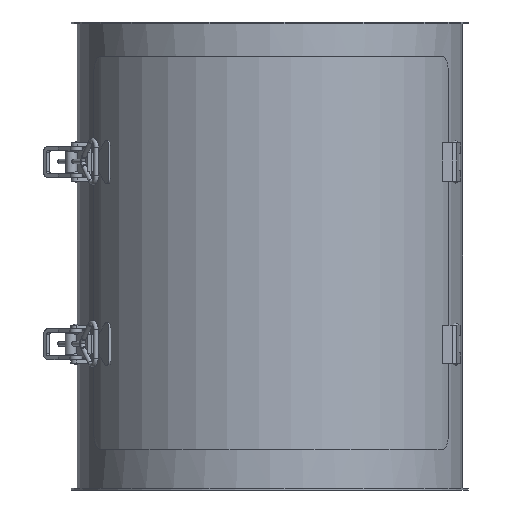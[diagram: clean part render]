
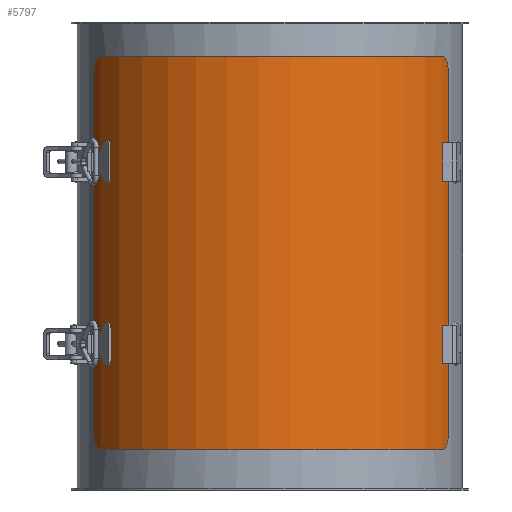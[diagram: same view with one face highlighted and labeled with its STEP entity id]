
A CAD part, front view. The second image highlights one B-rep face of the part: STEP entity #5797.
In plain terms, the highlighted cylindrical face has radius 203 mm (diameter 406 mm), a partial arc.
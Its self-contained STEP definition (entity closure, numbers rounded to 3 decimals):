
#5172=CARTESIAN_POINT('',(126.282,-2.475,336.513));
#5173=VERTEX_POINT('',#5172);
#5180=CARTESIAN_POINT('',(135.73,12.525,324.849));
#5181=VERTEX_POINT('',#5180);
#5182=CARTESIAN_POINT('',(126.282,-2.475,336.513));
#5183=CARTESIAN_POINT('',(126.282,-0.592,336.513));
#5184=CARTESIAN_POINT('',(126.531,1.417,336.23));
#5185=CARTESIAN_POINT('',(127.531,5.113,335.071));
#5186=CARTESIAN_POINT('',(128.282,6.8,334.194));
#5187=CARTESIAN_POINT('',(129.991,9.465,332.149));
#5188=CARTESIAN_POINT('',(131.063,10.619,330.844));
#5189=CARTESIAN_POINT('',(132.791,11.767,328.672));
#5190=CARTESIAN_POINT('',(133.387,12.056,327.913));
#5191=CARTESIAN_POINT('',(134.573,12.435,326.379));
#5192=CARTESIAN_POINT('',(135.164,12.525,325.603));
#5193=CARTESIAN_POINT('',(135.73,12.525,324.849));
#5194=B_SPLINE_CURVE_WITH_KNOTS('',3,(#5182,#5183,#5184,#5185,#5186,#5187,#5188,#5189,#5190,#5191,#5192,#5193),.UNSPECIFIED.,.F.,.U.,(4,2,2,2,2,4),(4.528,5.093,5.658,6.224,6.507,6.79),.UNSPECIFIED.);
#5195=EDGE_CURVE('',#5173,#5181,#5194,.T.);
#5310=CARTESIAN_POINT('',(-11.634,12.525,0.555));
#5311=VERTEX_POINT('',#5310);
#5312=CARTESIAN_POINT('',(-26.634,12.525,203.0));
#5313=DIRECTION('',(0.0,-1.0,0.0));
#5314=DIRECTION('',(0.0,0.0,-1.0));
#5315=AXIS2_PLACEMENT_3D('',#5312,#5313,#5314);
#5316=CIRCLE('',#5315,203.0);
#5317=EDGE_CURVE('',#5311,#5181,#5316,.T.);
#5336=CARTESIAN_POINT('',(-26.634,-2.475,0.0));
#5337=VERTEX_POINT('',#5336);
#5338=CARTESIAN_POINT('',(-11.634,12.525,0.555));
#5339=CARTESIAN_POINT('',(-12.574,12.525,0.485));
#5340=CARTESIAN_POINT('',(-13.547,12.435,0.42));
#5341=CARTESIAN_POINT('',(-15.483,12.056,0.304));
#5342=CARTESIAN_POINT('',(-16.446,11.767,0.254));
#5343=CARTESIAN_POINT('',(-19.219,10.619,0.127));
#5344=CARTESIAN_POINT('',(-20.907,9.465,0.076));
#5345=CARTESIAN_POINT('',(-23.572,6.8,0.019));
#5346=CARTESIAN_POINT('',(-24.726,5.113,0.008));
#5347=CARTESIAN_POINT('',(-26.257,1.417,-0.001));
#5348=CARTESIAN_POINT('',(-26.634,-0.592,0.));
#5349=CARTESIAN_POINT('',(-26.634,-2.475,0.));
#5350=B_SPLINE_CURVE_WITH_KNOTS('',3,(#5338,#5339,#5340,#5341,#5342,#5343,#5344,#5345,#5346,#5347,#5348,#5349),.UNSPECIFIED.,.F.,.U.,(4,2,2,2,2,4),(6.795,7.078,7.361,7.926,8.491,9.057),.UNSPECIFIED.);
#5351=EDGE_CURVE('',#5311,#5337,#5350,.T.);
#5368=CARTESIAN_POINT('',(135.73,-397.475,324.849));
#5369=VERTEX_POINT('',#5368);
#5376=CARTESIAN_POINT('',(126.282,-382.475,336.513));
#5377=VERTEX_POINT('',#5376);
#5378=CARTESIAN_POINT('',(135.73,-397.475,324.849));
#5379=CARTESIAN_POINT('',(135.164,-397.475,325.603));
#5380=CARTESIAN_POINT('',(134.573,-397.385,326.379));
#5381=CARTESIAN_POINT('',(133.387,-397.006,327.913));
#5382=CARTESIAN_POINT('',(132.791,-396.717,328.672));
#5383=CARTESIAN_POINT('',(131.063,-395.57,330.844));
#5384=CARTESIAN_POINT('',(129.991,-394.415,332.149));
#5385=CARTESIAN_POINT('',(128.282,-391.75,334.194));
#5386=CARTESIAN_POINT('',(127.531,-390.063,335.071));
#5387=CARTESIAN_POINT('',(126.531,-386.368,336.23));
#5388=CARTESIAN_POINT('',(126.282,-384.359,336.513));
#5389=CARTESIAN_POINT('',(126.282,-382.475,336.513));
#5390=B_SPLINE_CURVE_WITH_KNOTS('',3,(#5378,#5379,#5380,#5381,#5382,#5383,#5384,#5385,#5386,#5387,#5388,#5389),.UNSPECIFIED.,.F.,.U.,(4,2,2,2,2,4),(2.267,2.55,2.832,3.398,3.963,4.528),.UNSPECIFIED.);
#5391=EDGE_CURVE('',#5369,#5377,#5390,.T.);
#5409=CARTESIAN_POINT('',(-11.634,-397.475,0.555));
#5410=VERTEX_POINT('',#5409);
#5417=CARTESIAN_POINT('',(-26.634,-397.475,203.0));
#5418=DIRECTION('',(0.0,1.0,0.0));
#5419=DIRECTION('',(0.753,0.0,0.658));
#5420=AXIS2_PLACEMENT_3D('',#5417,#5418,#5419);
#5421=CIRCLE('',#5420,203.0);
#5422=EDGE_CURVE('',#5369,#5410,#5421,.T.);
#5433=CARTESIAN_POINT('',(-26.634,-382.475,0.0));
#5434=VERTEX_POINT('',#5433);
#5441=CARTESIAN_POINT('',(-26.634,-382.475,0.));
#5442=CARTESIAN_POINT('',(-26.634,-384.359,0.));
#5443=CARTESIAN_POINT('',(-26.257,-386.368,-0.001));
#5444=CARTESIAN_POINT('',(-24.726,-390.063,0.008));
#5445=CARTESIAN_POINT('',(-23.572,-391.75,0.019));
#5446=CARTESIAN_POINT('',(-20.907,-394.415,0.076));
#5447=CARTESIAN_POINT('',(-19.219,-395.57,0.127));
#5448=CARTESIAN_POINT('',(-16.446,-396.717,0.254));
#5449=CARTESIAN_POINT('',(-15.483,-397.006,0.304));
#5450=CARTESIAN_POINT('',(-13.547,-397.385,0.42));
#5451=CARTESIAN_POINT('',(-12.574,-397.475,0.485));
#5452=CARTESIAN_POINT('',(-11.634,-397.475,0.555));
#5453=B_SPLINE_CURVE_WITH_KNOTS('',3,(#5441,#5442,#5443,#5444,#5445,#5446,#5447,#5448,#5449,#5450,#5451,#5452),.UNSPECIFIED.,.F.,.U.,(4,2,2,2,2,4),(9.057,9.622,10.187,10.752,11.035,11.318),.UNSPECIFIED.);
#5454=EDGE_CURVE('',#5434,#5410,#5453,.T.);
#5505=CARTESIAN_POINT('',(132.674,-117.475,328.818));
#5506=VERTEX_POINT('',#5505);
#5514=CARTESIAN_POINT('',(132.674,-77.475,328.818));
#5515=VERTEX_POINT('',#5514);
#5522=CARTESIAN_POINT('',(132.674,-117.475,328.818));
#5523=DIRECTION('',(0.0,1.0,0.0));
#5524=VECTOR('',#5523,40.);
#5525=LINE('',#5522,#5524);
#5526=EDGE_CURVE('',#5506,#5515,#5525,.T.);
#5536=CARTESIAN_POINT('',(135.29,-117.475,325.432));
#5537=VERTEX_POINT('',#5536);
#5544=CARTESIAN_POINT('',(135.29,-77.475,325.432));
#5545=VERTEX_POINT('',#5544);
#5546=CARTESIAN_POINT('',(135.29,-77.475,325.432));
#5547=DIRECTION('',(0.0,-1.0,0.0));
#5548=VECTOR('',#5547,40.);
#5549=LINE('',#5546,#5548);
#5550=EDGE_CURVE('',#5545,#5537,#5549,.T.);
#5569=CARTESIAN_POINT('',(-26.634,-117.475,203.0));
#5570=DIRECTION('',(0.0,-1.0,0.0));
#5571=DIRECTION('',(0.753,0.0,0.658));
#5572=AXIS2_PLACEMENT_3D('',#5569,#5570,#5571);
#5573=CIRCLE('',#5572,203.0);
#5574=EDGE_CURVE('',#5537,#5506,#5573,.T.);
#5586=CARTESIAN_POINT('',(-26.634,-77.475,203.0));
#5587=DIRECTION('',(0.0,1.0,0.0));
#5588=DIRECTION('',(0.753,0.0,0.658));
#5589=AXIS2_PLACEMENT_3D('',#5586,#5587,#5588);
#5590=CIRCLE('',#5589,203.0);
#5591=EDGE_CURVE('',#5515,#5545,#5590,.T.);
#5643=CARTESIAN_POINT('',(132.674,-267.475,328.818));
#5644=VERTEX_POINT('',#5643);
#5651=CARTESIAN_POINT('',(132.674,-307.475,328.818));
#5652=VERTEX_POINT('',#5651);
#5653=CARTESIAN_POINT('',(132.674,-307.475,328.818));
#5654=DIRECTION('',(0.0,1.0,0.0));
#5655=VECTOR('',#5654,40.);
#5656=LINE('',#5653,#5655);
#5657=EDGE_CURVE('',#5652,#5644,#5656,.T.);
#5674=CARTESIAN_POINT('',(135.29,-267.475,325.432));
#5675=VERTEX_POINT('',#5674);
#5683=CARTESIAN_POINT('',(135.29,-307.475,325.432));
#5684=VERTEX_POINT('',#5683);
#5691=CARTESIAN_POINT('',(135.29,-267.475,325.432));
#5692=DIRECTION('',(0.0,-1.0,0.0));
#5693=VECTOR('',#5692,40.);
#5694=LINE('',#5691,#5693);
#5695=EDGE_CURVE('',#5675,#5684,#5694,.T.);
#5707=CARTESIAN_POINT('',(-26.634,-267.475,203.0));
#5708=DIRECTION('',(0.0,1.0,0.0));
#5709=DIRECTION('',(0.753,0.0,0.658));
#5710=AXIS2_PLACEMENT_3D('',#5707,#5708,#5709);
#5711=CIRCLE('',#5710,203.0);
#5712=EDGE_CURVE('',#5644,#5675,#5711,.T.);
#5726=CARTESIAN_POINT('',(-26.634,-307.475,203.0));
#5727=DIRECTION('',(0.0,-1.0,0.0));
#5728=DIRECTION('',(0.753,0.0,0.658));
#5729=AXIS2_PLACEMENT_3D('',#5726,#5727,#5728);
#5730=CIRCLE('',#5729,203.0);
#5731=EDGE_CURVE('',#5684,#5652,#5730,.T.);
#5742=CARTESIAN_POINT('',(-26.634,-382.475,0.0));
#5743=DIRECTION('',(0.0,1.0,0.0));
#5744=VECTOR('',#5743,380.);
#5745=LINE('',#5742,#5744);
#5746=EDGE_CURVE('',#5434,#5337,#5745,.T.);
#5761=CARTESIAN_POINT('',(126.282,-2.475,336.513));
#5762=DIRECTION('',(0.0,-1.0,0.0));
#5763=VECTOR('',#5762,380.);
#5764=LINE('',#5761,#5763);
#5765=EDGE_CURVE('',#5173,#5377,#5764,.T.);
#5770=CARTESIAN_POINT('',(-26.634,-397.475,203.0));
#5771=DIRECTION('',(0.,-1.0,0.0));
#5772=DIRECTION('',(0.753,0.0,0.658));
#5773=AXIS2_PLACEMENT_3D('',#5770,#5771,#5772);
#5774=CYLINDRICAL_SURFACE('',#5773,203.0);
#5775=ORIENTED_EDGE('',*,*,#5195,.F.);
#5776=ORIENTED_EDGE('',*,*,#5765,.T.);
#5777=ORIENTED_EDGE('',*,*,#5391,.F.);
#5778=ORIENTED_EDGE('',*,*,#5422,.T.);
#5779=ORIENTED_EDGE('',*,*,#5454,.F.);
#5780=ORIENTED_EDGE('',*,*,#5746,.T.);
#5781=ORIENTED_EDGE('',*,*,#5351,.F.);
#5782=ORIENTED_EDGE('',*,*,#5317,.T.);
#5783=EDGE_LOOP('',(#5775,#5776,#5777,#5778,#5779,#5780,#5781,#5782));
#5784=FACE_OUTER_BOUND('',#5783,.T.);
#5785=ORIENTED_EDGE('',*,*,#5550,.T.);
#5786=ORIENTED_EDGE('',*,*,#5574,.T.);
#5787=ORIENTED_EDGE('',*,*,#5526,.T.);
#5788=ORIENTED_EDGE('',*,*,#5591,.T.);
#5789=EDGE_LOOP('',(#5785,#5786,#5787,#5788));
#5790=FACE_BOUND('',#5789,.T.);
#5791=ORIENTED_EDGE('',*,*,#5695,.T.);
#5792=ORIENTED_EDGE('',*,*,#5731,.T.);
#5793=ORIENTED_EDGE('',*,*,#5657,.T.);
#5794=ORIENTED_EDGE('',*,*,#5712,.T.);
#5795=EDGE_LOOP('',(#5791,#5792,#5793,#5794));
#5796=FACE_BOUND('',#5795,.T.);
#5797=ADVANCED_FACE('',(#5784,#5790,#5796),#5774,.T.);
